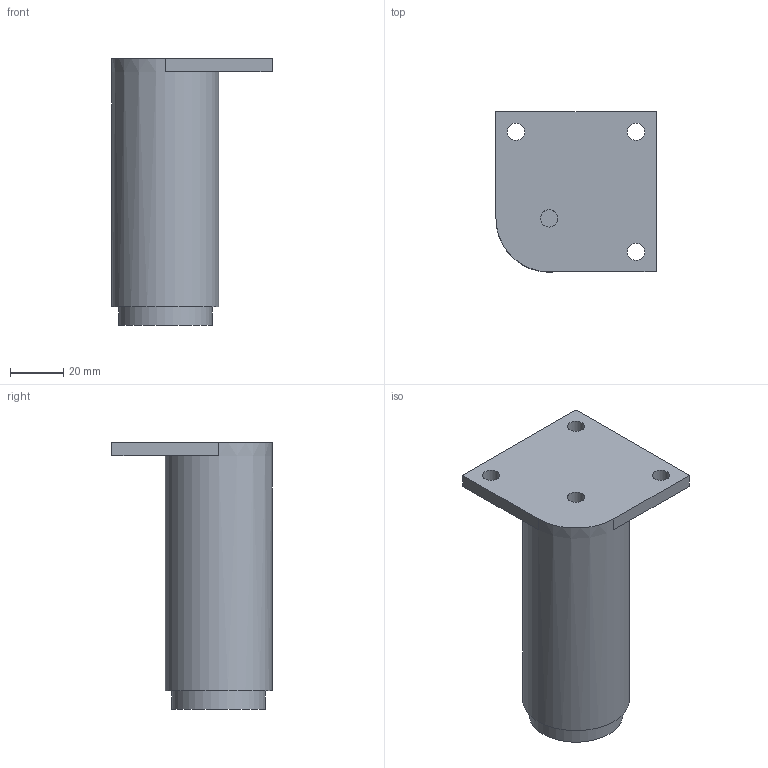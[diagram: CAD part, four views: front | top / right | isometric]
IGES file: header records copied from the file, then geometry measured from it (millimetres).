
Start section: Data from Parasolid IGES Translator 20.0.26, Copyright(c) 2006 Siemens P LM Software. All Rights Reserved.
Global section: file name: 9119552.igs; native system: By Siemens PLM Incorporated; preprocessor: XPlus GENERIC/IGES 20.0.26; author: Noname; organization: Noname; date: 20210125.170631; units: millimetre
Bounding box: 60 x 60 x 100 mm (x, y, z)
Surface area: 20222.8 mm2 (no closed solid volume)
Topology: 0 solids, 0 shells, 15 faces, 66 edges, 57 vertices
Faces by surface type: extrusion 9, revolution 6
